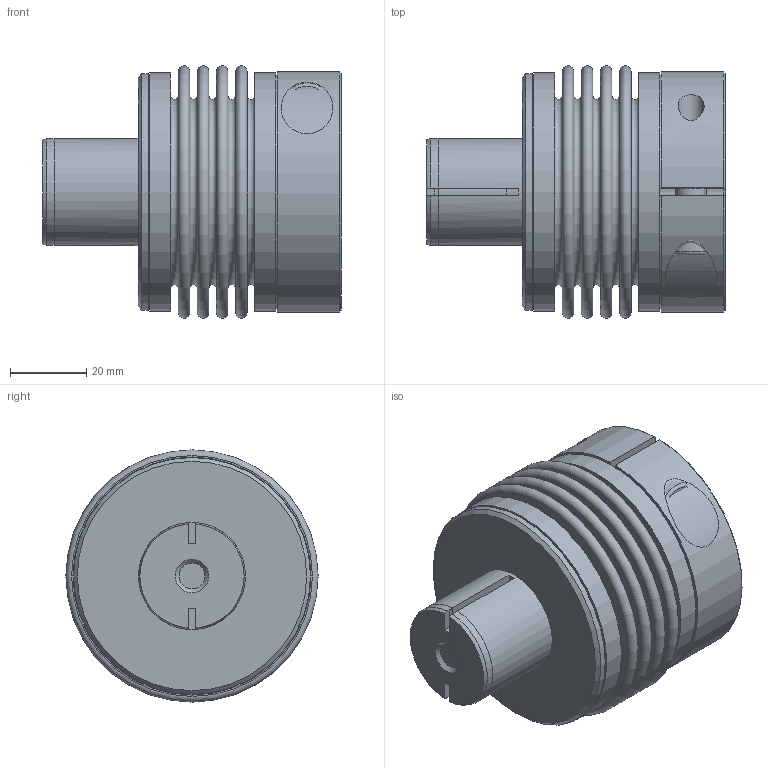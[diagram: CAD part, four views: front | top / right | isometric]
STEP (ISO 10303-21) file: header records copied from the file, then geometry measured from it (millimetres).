
FILE_DESCRIPTION(/* description */ ('Unknown','CAx-IF Rec.Pracs.---Representation and Presentation of Product Manufacturing Information (PMI)---4.0---2014-10-13','CAx-IF Rec.Pracs.---3D Tessellated Geometry---0.4---2014-09-14','2;1'),/* implementation_level */ '2;1');
FILE_NAME(/* name */ 'KPS 60',/* time_stamp */ '2023-11-15T10:58:29+01:00',/* author */ ('Unknown'),/* organization */ ('Unknown'),/* preprocessor_version */ 'ST-DEVELOPER v18.102',/* originating_system */ 'Solid Edge',/* authorisation */ 'Unknown');
FILE_SCHEMA (('AP242_MANAGED_MODEL_BASED_3D_ENGINEERING_MIM_LF { 1 0 10303 442 1 1 4 }'));
Length unit declared in the file: millimetre
Products named in the file (1): KPS  60
Bounding box: 78.2 x 66 x 66 mm (x, y, z)
Volume: 112526.7 mm3; surface area: 57650.4 mm2
Topology: 2 solids, 3 shells, 136 faces, 287 edges, 185 vertices
Faces by surface type: plane 78, cylinder 23, torus 20, cone 15
Full cylindrical faces by diameter (mm): 6.8 x1, 8 x2, 8.6 x2, 13 x2, 13.2 x1, 13.5 x1, 28 x1, 61.299 x1, 61.3 x1, 62 x1, 62.3 x2
Entity records: 3660 total; most frequent: CARTESIAN_POINT 843, DIRECTION 614, ORIENTED_EDGE 468, AXIS2_PLACEMENT_3D 256, EDGE_CURVE 234, FACE_BOUND 213, EDGE_LOOP 211, VERTEX_POINT 175
